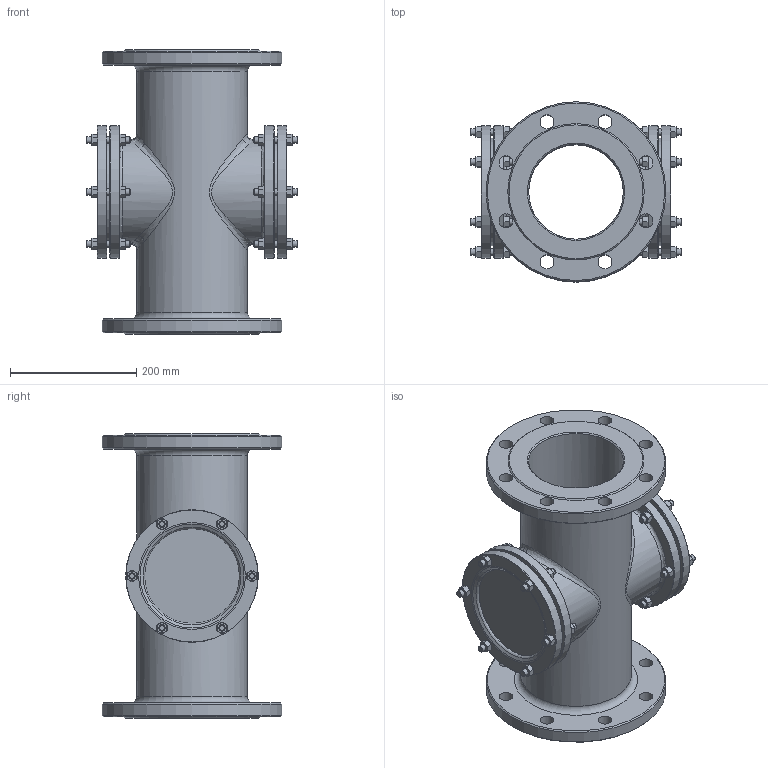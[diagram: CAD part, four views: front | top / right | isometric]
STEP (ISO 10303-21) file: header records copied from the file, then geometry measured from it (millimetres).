
FILE_DESCRIPTION(('STEP AP242'), '1');
FILE_NAME('SG2-32S-F Ñòåêëî ñìîòðîâîå DN.ru Äó150 Ðó16', '', ('UNSPECIFIED'), ('UNSPECIFIED'), 'C3D Converter', 'C3D Toolkit', '');
FILE_SCHEMA(('AP242_MANAGED_MODEL_BASED_3D_ENGINEERING_MIM_LF { 1 0 10303 442 1 1 4 }'));
Length unit declared in the file: millimetre
Products named in the file (1): SG2-32S-F
Bounding box: 335.25 x 285 x 450 mm (x, y, z)
Volume: 5948749.7 mm3; surface area: 924212.8 mm2
Topology: 1 solids, 1 shells, 690 faces, 1611 edges, 971 vertices
Faces by surface type: cone 322, plane 247, cylinder 76, bspline 29, torus 16
Full cylindrical faces by diameter (mm): 10 x36, 22 x16, 150 x6, 165 x2, 170 x2, 175 x1, 210 x4, 285 x2
Entity records: 40176 total; most frequent: CARTESIAN_POINT 24367, ORIENTED_EDGE 2954, DIRECTION 2670, EDGE_CURVE 1477, AXIS2_PLACEMENT_3D 1215, VERTEX_POINT 967, EDGE_LOOP 926, FACE_BOUND 773
